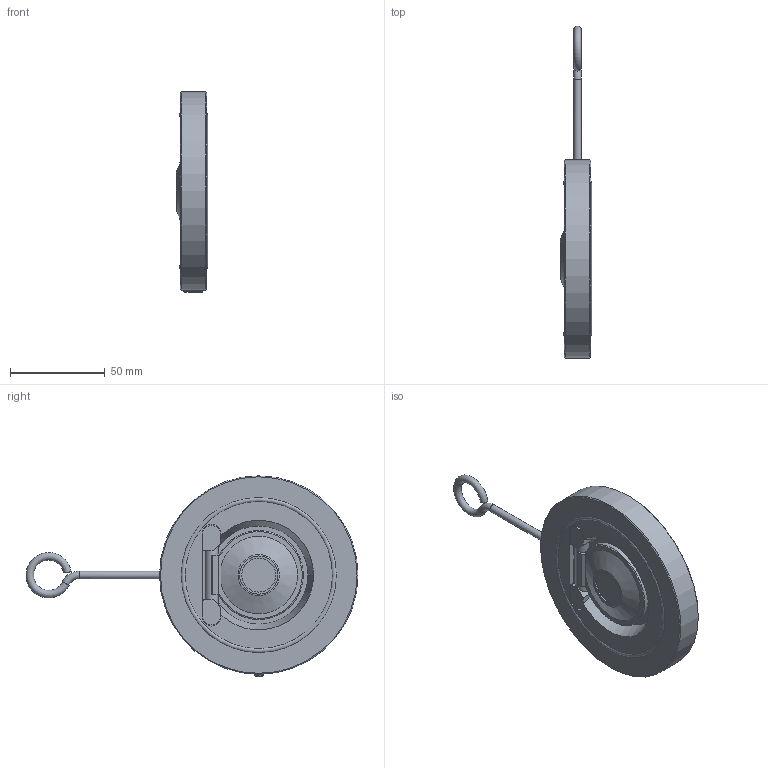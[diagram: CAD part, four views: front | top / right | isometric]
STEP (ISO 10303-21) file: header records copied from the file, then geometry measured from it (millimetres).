
FILE_DESCRIPTION(/* description */ ('Modèle 58768-Single disk check valve for PN16 flanges - FKM gaskets - Stainless steel 316'),/* implementation_level */ '2;1');
FILE_NAME(/* name */ '944600350.stp',/* time_stamp */ '2025-05-02T13:27:15+02:00',/* author */ ('JJ'),/* organization */ (''),/* preprocessor_version */ 'ST-DEVELOPER v20',/* originating_system */ 'Autodesk Inventor 2025',/* authorisation */ '');
FILE_SCHEMA (('AUTOMOTIVE_DESIGN { 1 0 10303 214 3 1 1 }'));
Length unit declared in the file: millimetre
Products named in the file (1): 944600350
Bounding box: 16.41 x 175.65 x 106 mm (x, y, z)
Volume: 113325.7 mm3; surface area: 35779.7 mm2
Topology: 2 solids, 2 shells, 71 faces, 180 edges, 116 vertices
Faces by surface type: plane 38, cylinder 19, torus 6, bspline 4, cone 4
Full cylindrical faces by diameter (mm): 4 x1, 18 x1, 32 x1, 78 x1, 82 x1, 105 x1
Entity records: 2569 total; most frequent: CARTESIAN_POINT 799, ORIENTED_EDGE 360, DIRECTION 357, EDGE_CURVE 180, AXIS2_PLACEMENT_3D 132, VERTEX_POINT 116, LINE 93, VECTOR 93
